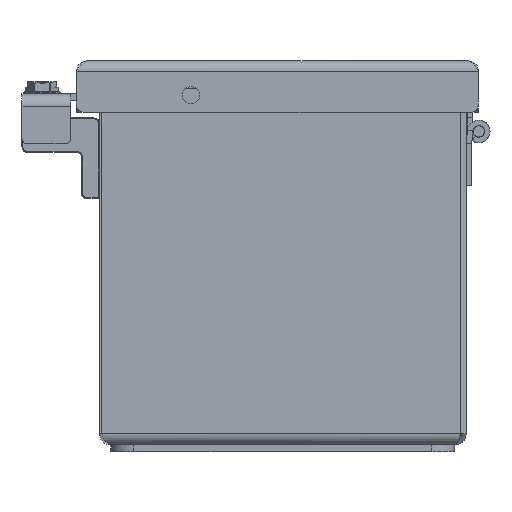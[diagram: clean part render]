
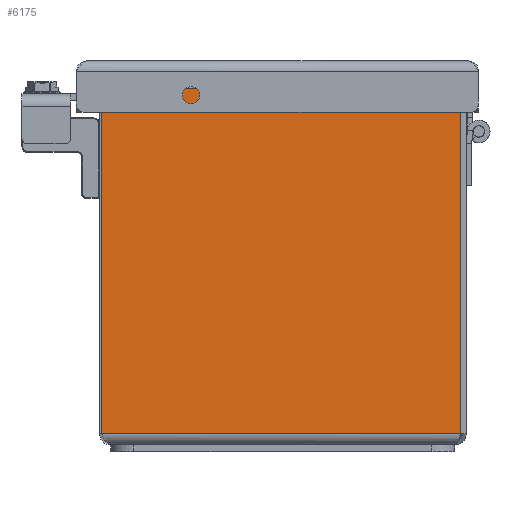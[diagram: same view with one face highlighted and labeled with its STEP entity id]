
A CAD part, left-side view. The second image highlights one B-rep face of the part: STEP entity #6175.
In plain terms, the highlighted planar face has unit normal (-1, 0, 0).
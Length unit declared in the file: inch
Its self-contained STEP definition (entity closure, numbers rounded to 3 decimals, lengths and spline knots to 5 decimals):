
#375=DIRECTION('',(0.,-1.,0.));
#376=VECTOR('',#375,3.918);
#377=CARTESIAN_POINT('',(0.,3.978,0.12));
#378=LINE('',#377,#376);
#1810=CARTESIAN_POINT('',(0.,0.112,3.888));
#1811=DIRECTION('',(-1.,0.,0.));
#1812=DIRECTION('',(0.,-1.,0.));
#1813=AXIS2_PLACEMENT_3D('',#1810,#1811,#1812);
#1818=DIRECTION('',(0.,0.,1.));
#1819=VECTOR('',#1818,3.768);
#1820=CARTESIAN_POINT('',(0.,3.978,0.12));
#1821=LINE('',#1820,#1819);
#1825=DIRECTION('',(0.,0.,1.));
#1826=VECTOR('',#1825,0.052);
#1827=CARTESIAN_POINT('',(0.,0.35,3.888));
#1828=LINE('',#1827,#1826);
#1832=DIRECTION('',(0.,1.,0.));
#1833=VECTOR('',#1832,0.238);
#1834=CARTESIAN_POINT('',(0.,0.112,3.94));
#1835=LINE('',#1834,#1833);
#1853=DIRECTION('',(0.,0.,1.));
#1854=VECTOR('',#1853,3.768);
#1855=CARTESIAN_POINT('',(0.,0.06,0.12));
#1856=LINE('',#1855,#1854);
#1889=DIRECTION('',(0.,-1.,0.));
#1890=VECTOR('',#1889,3.628);
#1891=CARTESIAN_POINT('',(0.,3.978,3.888));
#1892=LINE('',#1891,#1890);
#3318=CARTESIAN_POINT('',(0.,0.06,0.12));
#3320=VERTEX_POINT('',#3318);
#3338=CARTESIAN_POINT('',(0.,3.978,0.12));
#3340=VERTEX_POINT('',#3338);
#3466=CARTESIAN_POINT('',(0.,0.35,3.888));
#3467=VERTEX_POINT('',#3466);
#3468=CARTESIAN_POINT('',(0.,3.978,3.888));
#3469=VERTEX_POINT('',#3468);
#3550=CARTESIAN_POINT('',(0.,0.35,3.94));
#3551=VERTEX_POINT('',#3550);
#3558=CARTESIAN_POINT('',(0.,0.06,3.888));
#3559=CARTESIAN_POINT('',(0.,0.112,3.94));
#3560=VERTEX_POINT('',#3558);
#3561=VERTEX_POINT('',#3559);
#6156=CARTESIAN_POINT('',(0.,4.,0.));
#6157=DIRECTION('',(-1.,0.,0.));
#6158=DIRECTION('',(0.,-1.,0.));
#6159=AXIS2_PLACEMENT_3D('',#6156,#6157,#6158);
#6160=PLANE('',#6159);
#6161=ORIENTED_EDGE('',*,*,#6146,.F.);
#6163=ORIENTED_EDGE('',*,*,#6162,.F.);
#6164=ORIENTED_EDGE('',*,*,#4216,.F.);
#6166=ORIENTED_EDGE('',*,*,#6165,.T.);
#6168=ORIENTED_EDGE('',*,*,#6167,.T.);
#6170=ORIENTED_EDGE('',*,*,#6169,.T.);
#6172=ORIENTED_EDGE('',*,*,#6171,.F.);
#6173=EDGE_LOOP('',(#6161,#6163,#6164,#6166,#6168,#6170,#6172));
#6174=FACE_OUTER_BOUND('',#6173,.F.);
#1814=CIRCLE('',#1813,0.052);
#4216=EDGE_CURVE('',#3340,#3320,#378,.T.);
#6146=EDGE_CURVE('',#3560,#3561,#1814,.T.);
#6162=EDGE_CURVE('',#3320,#3560,#1856,.T.);
#6165=EDGE_CURVE('',#3340,#3469,#1821,.T.);
#6167=EDGE_CURVE('',#3469,#3467,#1892,.T.);
#6169=EDGE_CURVE('',#3467,#3551,#1828,.T.);
#6171=EDGE_CURVE('',#3561,#3551,#1835,.T.);
#6175=ADVANCED_FACE('',(#6174),#6160,.T.);
